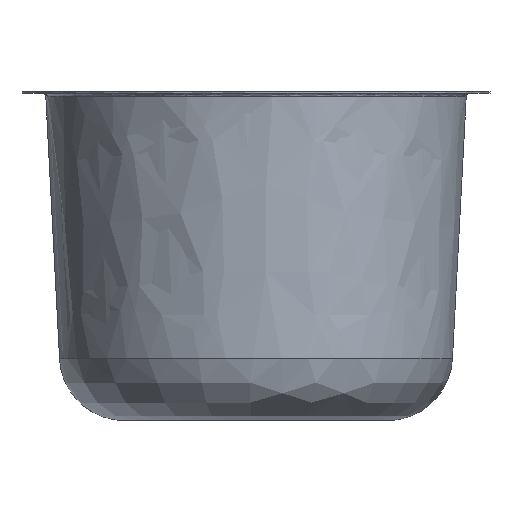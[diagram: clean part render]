
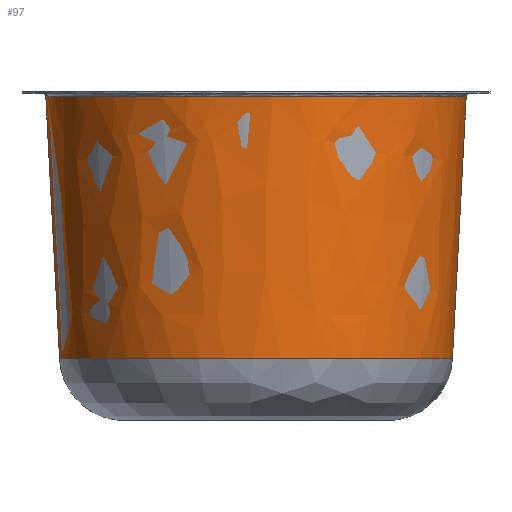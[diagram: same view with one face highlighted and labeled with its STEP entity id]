
A CAD part, front view. The second image highlights one B-rep face of the part: STEP entity #97.
In plain terms, the highlighted free-form (B-spline) face has degree [5, 3] with [9, 4] control points.
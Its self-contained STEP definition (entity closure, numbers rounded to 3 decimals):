
#97=ADVANCED_FACE('',(#157),#158,.T.);
#157=FACE_OUTER_BOUND('',#1748,.T.);
#158=B_SPLINE_SURFACE_WITH_KNOTS('',5,3,((#1749,#1750,#1751,#1752),(#1753,#1754,#1755,#1756),(#1757,#1758,#1759,#1760),(#1761,#1762,#1763,#1764),(#1765,#1766,#1767,#1768),(#1769,#1770,#1771,#1772),(#1773,#1774,#1775,#1776),(#1777,#1778,#1779,#1780),(#1781,#1782,#1783,#1784)),.UNSPECIFIED.,.F.,.F.,.F.,(6,3,6),(4,4),(0.0,128.461,249.098),(23.724,127.39),.UNSPECIFIED.);
#1748=EDGE_LOOP('',(#2209,#2210,#2211,#2212));
#1749=CARTESIAN_POINT('',(-77.664,-67.5,-104.945));
#1750=CARTESIAN_POINT('',(-79.473,-67.5,-70.437));
#1751=CARTESIAN_POINT('',(-81.281,-67.5,-35.929));
#1752=CARTESIAN_POINT('',(-83.09,-67.5,-1.421));
#1753=CARTESIAN_POINT('',(-77.664,-92.699,-104.945));
#1754=CARTESIAN_POINT('',(-79.473,-93.286,-70.437));
#1755=CARTESIAN_POINT('',(-81.281,-93.873,-35.929));
#1756=CARTESIAN_POINT('',(-83.09,-94.459,-1.421));
#1757=CARTESIAN_POINT('',(-67.444,-117.898,-104.945));
#1758=CARTESIAN_POINT('',(-69.015,-119.071,-70.437));
#1759=CARTESIAN_POINT('',(-70.585,-120.245,-35.929));
#1760=CARTESIAN_POINT('',(-72.156,-121.419,-1.421));
#1761=CARTESIAN_POINT('',(-47.028,-137.336,-104.945));
#1762=CARTESIAN_POINT('',(-48.123,-138.962,-70.437));
#1763=CARTESIAN_POINT('',(-49.218,-140.588,-35.929));
#1764=CARTESIAN_POINT('',(-50.313,-142.214,-1.421));
#1765=CARTESIAN_POINT('',(2.749,-154.732,-104.945));
#1766=CARTESIAN_POINT('',(2.813,-156.764,-70.437));
#1767=CARTESIAN_POINT('',(2.877,-158.795,-35.929));
#1768=CARTESIAN_POINT('',(2.941,-160.826,-1.421));
#1769=CARTESIAN_POINT('',(50.64,-133.746,-104.945));
#1770=CARTESIAN_POINT('',(51.819,-135.289,-70.437));
#1771=CARTESIAN_POINT('',(52.998,-136.831,-35.929));
#1772=CARTESIAN_POINT('',(54.178,-138.374,-1.421));
#1773=CARTESIAN_POINT('',(68.651,-114.828,-104.945));
#1774=CARTESIAN_POINT('',(70.25,-115.93,-70.437));
#1775=CARTESIAN_POINT('',(71.848,-117.033,-35.929));
#1776=CARTESIAN_POINT('',(73.447,-118.135,-1.421));
#1777=CARTESIAN_POINT('',(77.664,-91.164,-104.945));
#1778=CARTESIAN_POINT('',(79.473,-91.715,-70.437));
#1779=CARTESIAN_POINT('',(81.281,-92.266,-35.929));
#1780=CARTESIAN_POINT('',(83.09,-92.817,-1.421));
#1781=CARTESIAN_POINT('',(77.664,-67.5,-104.945));
#1782=CARTESIAN_POINT('',(79.473,-67.5,-70.437));
#1783=CARTESIAN_POINT('',(81.281,-67.5,-35.929));
#1784=CARTESIAN_POINT('',(83.09,-67.5,-1.421));
#2209=ORIENTED_EDGE('',*,*,#2346,.T.);
#2210=ORIENTED_EDGE('',*,*,#2347,.T.);
#2211=ORIENTED_EDGE('',*,*,#2345,.F.);
#2212=ORIENTED_EDGE('',*,*,#2348,.F.);
#2345=EDGE_CURVE('',#2442,#2456,#2459,.T.);
#2346=EDGE_CURVE('',#2460,#2461,#2462,.T.);
#2347=EDGE_CURVE('',#2461,#2456,#2463,.T.);
#2348=EDGE_CURVE('',#2460,#2442,#2464,.T.);
#2442=VERTEX_POINT('',#3126);
#2456=VERTEX_POINT('',#3170);
#2459=B_SPLINE_CURVE_WITH_KNOTS('',5,(#3174,#3175,#3176,#3177,#3178,#3179,#3180,#3181,#3182,#3183,#3184,#3185,#3186,#3187,#3188,#3189,#3190,#3191,#3192,#3193,#3194,#3195,#3196,#3197,#3198,#3199,#3200),.UNSPECIFIED.,.F.,.F.,(6,3,3,3,3,3,3,3,6),(161.339,213.756,266.219,318.673,359.441,411.864,464.319,524.758,525.577),.UNSPECIFIED.);
#2460=VERTEX_POINT('',#3201);
#2461=VERTEX_POINT('',#3202);
#2462=B_SPLINE_CURVE_WITH_KNOTS('',5,(#3203,#3204,#3205,#3206,#3207,#3208,#3209,#3210,#3211,#3212,#3213,#3214,#3215,#3216,#3217,#3218,#3219,#3220,#3221,#3222,#3223,#3224,#3225,#3226,#3227,#3228,#3229,#3230,#3231,#3232,#3233,#3234,#3235,#3236,#3237,#3238,#3239,#3240,#3241,#3242,#3243,#3244,#3245,#3246,#3247,#3248,#3249,#3250),.UNSPECIFIED.,.F.,.F.,(6,3,3,3,3,3,3,3,3,3,3,3,3,3,3,6),(156.417,157.083,157.749,159.082,161.746,167.076,177.734,199.052,253.792,302.4,369.239,430.022,442.166,448.238,451.274,454.31),.UNSPECIFIED.);
#2463=B_SPLINE_CURVE_WITH_KNOTS('',1,(#3251,#3252),.UNSPECIFIED.,.F.,.F.,(2,2),(23.724,127.39),.UNSPECIFIED.);
#2464=B_SPLINE_CURVE_WITH_KNOTS('',1,(#3253,#3254),.UNSPECIFIED.,.F.,.F.,(2,2),(23.724,127.39),.UNSPECIFIED.);
#3126=CARTESIAN_POINT('',(-83.09,-67.5,-1.421));
#3170=CARTESIAN_POINT('',(83.09,-67.5,-1.421));
#3174=CARTESIAN_POINT('',(-83.09,-67.5,-1.421));
#3175=CARTESIAN_POINT('',(-83.09,-75.018,-1.421));
#3176=CARTESIAN_POINT('',(-82.24,-82.536,-1.421));
#3177=CARTESIAN_POINT('',(-80.54,-89.923,-1.421));
#3178=CARTESIAN_POINT('',(-75.498,-104.186,-1.421));
#3179=CARTESIAN_POINT('',(-67.404,-116.959,-1.421));
#3180=CARTESIAN_POINT('',(-62.647,-122.86,-1.421));
#3181=CARTESIAN_POINT('',(-51.883,-133.484,-1.421));
#3182=CARTESIAN_POINT('',(-39.018,-141.439,-1.421));
#3183=CARTESIAN_POINT('',(-32.161,-144.67,-1.421));
#3184=CARTESIAN_POINT('',(-19.426,-148.985,-1.421));
#3185=CARTESIAN_POINT('',(-6.114,-150.675,-1.421));
#3186=CARTESIAN_POINT('',(-0.241,-150.899,-1.421));
#3187=CARTESIAN_POINT('',(13.16,-150.227,-1.421));
#3188=CARTESIAN_POINT('',(26.189,-146.895,-1.421));
#3189=CARTESIAN_POINT('',(33.272,-144.196,-1.421));
#3190=CARTESIAN_POINT('',(46.707,-137.245,-1.421));
#3191=CARTESIAN_POINT('',(58.247,-127.471,-1.421));
#3192=CARTESIAN_POINT('',(63.44,-121.949,-1.421));
#3193=CARTESIAN_POINT('',(73.176,-108.903,-1.421));
#3194=CARTESIAN_POINT('',(79.515,-93.867,-1.421));
#3195=CARTESIAN_POINT('',(81.835,-85.416,-1.421));
#3196=CARTESIAN_POINT('',(83.043,-76.638,-1.421));
#3197=CARTESIAN_POINT('',(83.089,-67.853,-1.421));
#3198=CARTESIAN_POINT('',(83.09,-67.735,-1.421));
#3199=CARTESIAN_POINT('',(83.09,-67.618,-1.421));
#3200=CARTESIAN_POINT('',(83.09,-67.5,-1.421));
#3201=CARTESIAN_POINT('',(-77.664,-67.5,-104.945));
#3202=CARTESIAN_POINT('',(77.664,-67.5,-104.945));
#3203=CARTESIAN_POINT('',(-77.664,-67.5,-104.945));
#3204=CARTESIAN_POINT('',(-77.664,-67.61,-104.945));
#3205=CARTESIAN_POINT('',(-77.664,-67.718,-104.945));
#3206=CARTESIAN_POINT('',(-77.664,-67.828,-104.945));
#3207=CARTESIAN_POINT('',(-77.663,-68.046,-104.945));
#3208=CARTESIAN_POINT('',(-77.661,-68.265,-104.945));
#3209=CARTESIAN_POINT('',(-77.66,-68.374,-104.945));
#3210=CARTESIAN_POINT('',(-77.656,-68.702,-104.945));
#3211=CARTESIAN_POINT('',(-77.65,-69.029,-104.945));
#3212=CARTESIAN_POINT('',(-77.645,-69.248,-104.945));
#3213=CARTESIAN_POINT('',(-77.629,-69.903,-104.945));
#3214=CARTESIAN_POINT('',(-77.606,-70.558,-104.945));
#3215=CARTESIAN_POINT('',(-77.588,-70.994,-104.945));
#3216=CARTESIAN_POINT('',(-77.523,-72.303,-104.945));
#3217=CARTESIAN_POINT('',(-77.431,-73.611,-104.945));
#3218=CARTESIAN_POINT('',(-77.357,-74.482,-104.945));
#3219=CARTESIAN_POINT('',(-77.1,-77.09,-104.945));
#3220=CARTESIAN_POINT('',(-76.732,-79.686,-104.945));
#3221=CARTESIAN_POINT('',(-76.439,-81.409,-104.945));
#3222=CARTESIAN_POINT('',(-75.413,-86.551,-104.945));
#3223=CARTESIAN_POINT('',(-73.958,-91.592,-104.945));
#3224=CARTESIAN_POINT('',(-72.799,-94.894,-104.945));
#3225=CARTESIAN_POINT('',(-68.013,-106.417,-104.945));
#3226=CARTESIAN_POINT('',(-60.981,-116.847,-104.945));
#3227=CARTESIAN_POINT('',(-54.867,-123.565,-104.945));
#3228=CARTESIAN_POINT('',(-41.661,-134.409,-104.945));
#3229=CARTESIAN_POINT('',(-26.061,-141.316,-104.945));
#3230=CARTESIAN_POINT('',(-18.343,-143.603,-104.945));
#3231=CARTESIAN_POINT('',(0.494,-146.624,-104.945));
#3232=CARTESIAN_POINT('',(19.524,-143.885,-104.945));
#3233=CARTESIAN_POINT('',(30.136,-140.35,-104.945));
#3234=CARTESIAN_POINT('',(48.768,-130.188,-104.945));
#3235=CARTESIAN_POINT('',(63.009,-114.539,-104.945));
#3236=CARTESIAN_POINT('',(68.532,-106.053,-104.945));
#3237=CARTESIAN_POINT('',(73.415,-94.983,-104.945));
#3238=CARTESIAN_POINT('',(76.074,-83.324,-104.945));
#3239=CARTESIAN_POINT('',(76.455,-81.369,-104.945));
#3240=CARTESIAN_POINT('',(76.932,-78.419,-104.945));
#3241=CARTESIAN_POINT('',(77.266,-75.451,-104.945));
#3242=CARTESIAN_POINT('',(77.361,-74.46,-104.945));
#3243=CARTESIAN_POINT('',(77.481,-72.972,-104.945));
#3244=CARTESIAN_POINT('',(77.565,-71.481,-104.945));
#3245=CARTESIAN_POINT('',(77.589,-70.983,-104.945));
#3246=CARTESIAN_POINT('',(77.628,-69.989,-104.945));
#3247=CARTESIAN_POINT('',(77.652,-68.993,-104.945));
#3248=CARTESIAN_POINT('',(77.66,-68.498,-104.945));
#3249=CARTESIAN_POINT('',(77.664,-67.998,-104.945));
#3250=CARTESIAN_POINT('',(77.664,-67.5,-104.945));
#3251=CARTESIAN_POINT('',(77.664,-67.5,-104.945));
#3252=CARTESIAN_POINT('',(83.09,-67.5,-1.421));
#3253=CARTESIAN_POINT('',(-77.664,-67.5,-104.945));
#3254=CARTESIAN_POINT('',(-83.09,-67.5,-1.421));
